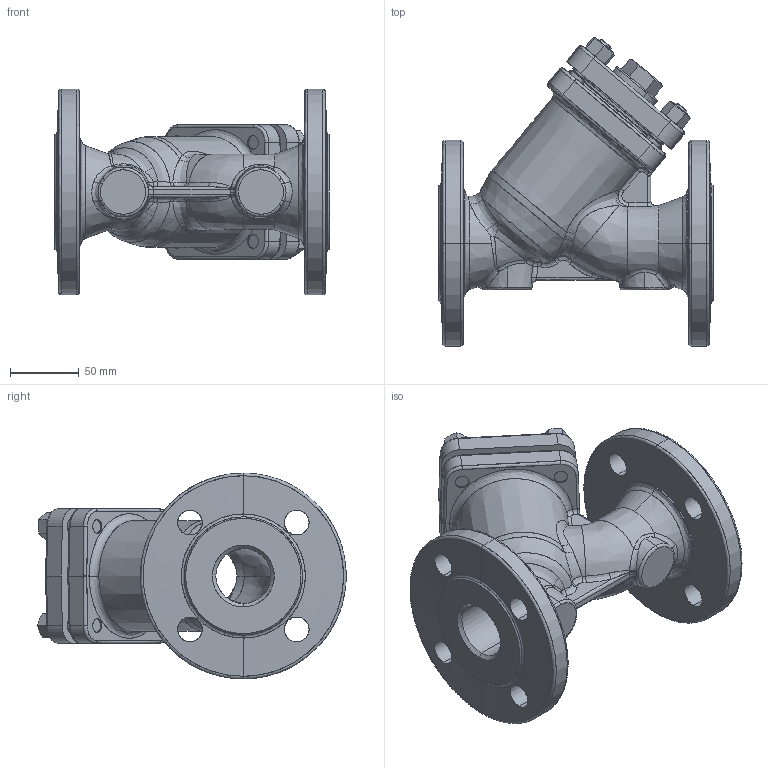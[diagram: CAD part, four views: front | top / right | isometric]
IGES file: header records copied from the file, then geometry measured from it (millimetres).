
Start section: SolidWorks IGES file using analytic representation for surfaces
Global section: file name: D:\Archiwum SolidWorks\staliwo\821\PN40\CAD\821_DN40 PN40.IGS; native system: SolidWorks 2010; preprocessor: SolidWorks 2010; author: wtarnaws; date: 100113.075649; units: millimetre
Bounding box: 200 x 224.74 x 150 mm (x, y, z)
Surface area: 231440.3 mm2 (no closed solid volume)
Topology: 0 solids, 0 shells, 562 faces, 8871 edges, 8870 vertices
Faces by surface type: bspline 281, revolution 281
